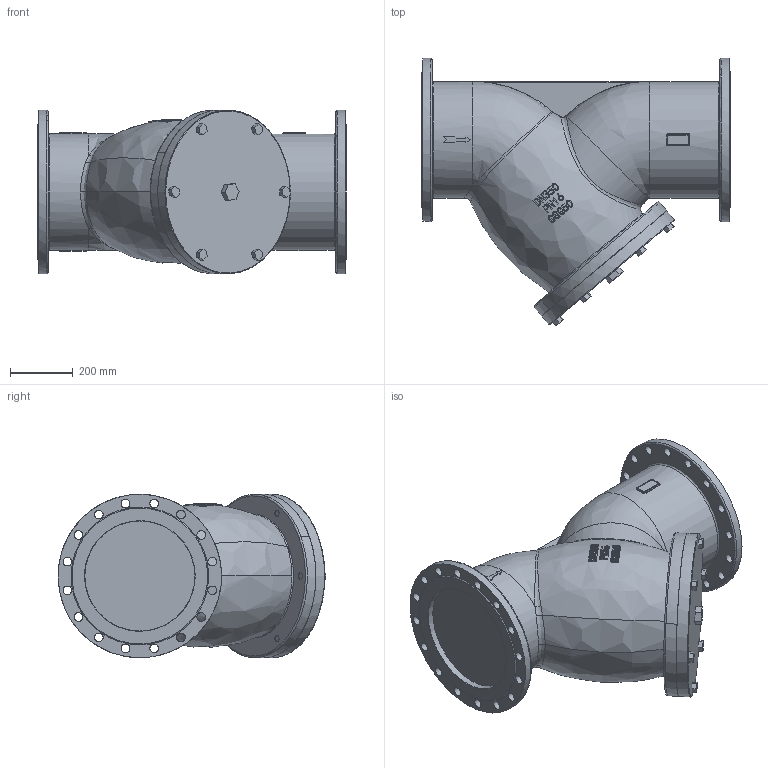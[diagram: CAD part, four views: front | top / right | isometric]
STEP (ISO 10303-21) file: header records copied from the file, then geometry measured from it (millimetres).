
FILE_DESCRIPTION (( 'STEP AP214' ), '1' );
FILE_NAME ('DN350.STEP', '2026-09-13T12:21:41', ( '' ), ( '' ), 'SwSTEP 2.0', 'SolidWorks 2024', '' );
FILE_SCHEMA (( 'AUTOMOTIVE_DESIGN' ));
Length unit declared in the file: millimetre
Products named in the file (1): DN350
Bounding box: 980 x 851.8 x 520 mm (x, y, z)
Volume: 154893305.5 mm3; surface area: 3215825.9 mm2
Topology: 1 solids, 4 shells, 476 faces, 1277 edges, 850 vertices
Faces by surface type: plane 194, bspline 170, cylinder 98, torus 8, cone 6
Full cylindrical faces by diameter (mm): 21 x12, 22 x6, 28 x32, 45 x1, 350 x2, 370 x2, 380 x1, 520 x3
Entity records: 66110 total; most frequent: CARTESIAN_POINT 51961, ORIENTED_EDGE 2322, DIRECTION 1229, EDGE_CURVE 1161, VERTEX_POINT 832, EDGE_LOOP 691, B_SPLINE_CURVE_WITH_KNOTS 648, FACE_OUTER_BOUND 549
